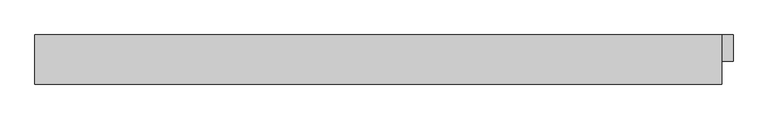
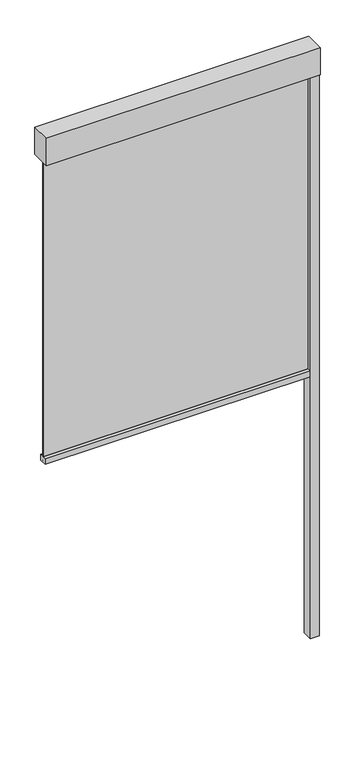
"""IFC4 building model written with IfcOpenShell, lengths in millimetres: proxy geometry, Renson_Fixscreen_Minimal_CW50_Middle : For curtain wall - Middle element - Access downwards - Fabric close to the window."""

import ifcopenshell
import ifcopenshell.guid

model = None  # the IFC model being written
_history = None  # IfcOwnerHistory: only IFC2X3 demands one
_inside = {}  # id of a spatial element -> (the spatial element, [elements in it])
_under = {}  # id of a project, library or spatial element -> (it, [spatial elements below it])
_declared = {}  # id of a project -> (the project, [libraries it declares])
_typed = {}  # id of a type object -> (the type object, [elements of that type])
_made_of = {}  # id of a material, layer set ... -> (it, [elements and type objects made of it])


def new_model(schema):
    """Start an empty IFC model of exactly this schema.

    Asked for "IFC4X3", IfcOpenShell would pick the latest addendum, in which some entities
    have other attributes; the version numbers below select the first issue.
    IFC2X3 requires an IfcOwnerHistory on every rooted entity: one is made here for all.
    """
    global model, _history
    if schema == "IFC4X3":
        model = ifcopenshell.file(schema_version=(4, 3, 0, 0))
    else:
        model = ifcopenshell.file(schema=schema)
    _inside.clear()
    _under.clear()
    _declared.clear()
    _typed.clear()
    _made_of.clear()
    _history = None
    if model.schema == "IFC2X3":
        org = make("IfcOrganization", Name="unknown")
        user = make(
            "IfcPersonAndOrganization",
            ThePerson=make("IfcPerson", FamilyName="unknown"),
            TheOrganization=org,
        )
        app = make(
            "IfcApplication",
            ApplicationDeveloper=org,
            Version="unknown",
            ApplicationFullName="unknown",
            ApplicationIdentifier="unknown",
        )
        _history = make(
            "IfcOwnerHistory",
            OwningUser=user,
            OwningApplication=app,
            ChangeAction="ADDED",
            CreationDate=0,
        )
    return model


def make(cls, **values):
    """One entity of the class cls with the attributes given. An attribute that is None is left unset."""
    return model.create_entity(
        cls, **{name: value for name, value in values.items() if value is not None}
    )


def rooted(cls, **values):
    """An entity with a GlobalId (a new one), such as an element, a storey or a relation."""
    return make(cls, GlobalId=ifcopenshell.guid.new(), OwnerHistory=_history, **values)


def si_unit(unit_type, name, prefix=None):
    """IfcSIUnit, for example si_unit("LENGTHUNIT", "METRE", prefix="MILLI")."""
    return make("IfcSIUnit", UnitType=unit_type, Prefix=prefix, Name=name)


def assignment(units):
    """IfcUnitAssignment: the units of a project."""
    return None if units is None else make("IfcUnitAssignment", Units=units)


def point(xyz):
    """IfcCartesianPoint."""
    return None if xyz is None else make("IfcCartesianPoint", Coordinates=xyz)


def direction(xyz):
    """IfcDirection."""
    return None if xyz is None else make("IfcDirection", DirectionRatios=xyz)


def frame(location, z_axis=None, x_axis=None):
    """IfcAxis2Placement3D, a coordinate frame: its origin and axes. An axis left out is left unset."""
    return make(
        "IfcAxis2Placement3D",
        Location=point(location),
        Axis=direction(z_axis),
        RefDirection=direction(x_axis),
    )


def frame_2d(location, x_axis=None):
    """IfcAxis2Placement2D, a coordinate frame in the plane: its origin and x axis."""
    return make(
        "IfcAxis2Placement2D", Location=point(location), RefDirection=direction(x_axis)
    )


def origin():
    """The frame at (0, 0, 0) with its axes left unset."""
    return frame((0.0, 0.0, 0.0))


def origin_with_axes():
    """The frame at (0, 0, 0) with the z axis (0, 0, 1) and the x axis (1, 0, 0) written out."""
    return frame((0.0, 0.0, 0.0), z_axis=(0.0, 0.0, 1.0), x_axis=(1.0, 0.0, 0.0))


def place(relative_to, where):
    """IfcLocalPlacement: puts the frame where relative to a parent placement (None: the world)."""
    return make(
        "IfcLocalPlacement", PlacementRelTo=relative_to, RelativePlacement=where
    )


def context(
    kind, dimensions, precision=None, world=None, true_north=None, identifier=None
):
    """IfcGeometricRepresentationContext, for example the 3D "Model" context."""
    return make(
        "IfcGeometricRepresentationContext",
        ContextIdentifier=identifier,
        ContextType=kind,
        CoordinateSpaceDimension=dimensions,
        Precision=precision,
        WorldCoordinateSystem=world,
        TrueNorth=true_north,
    )


def project(units=None, contexts=None):
    """IfcProject with its units and contexts."""
    return rooted(
        "IfcProject",
        Name="project",
        RepresentationContexts=contexts,
        UnitsInContext=assignment(units),
    )


def spatial(cls, under=None, at=None, **own):
    """A site, building, storey or space (cls), placed at a placement, below another one or the project."""
    s = rooted(cls, ObjectPlacement=at, **own)
    if under is not None:
        _under.setdefault(under.id(), (under, []))[1].append(s)
    return s


def polyline(points):
    """IfcPolyline through the points."""
    return make("IfcPolyline", Points=[point(p) for p in points])


def circle_curve(where, radius):
    """IfcCircle in the frame where."""
    return make("IfcCircle", Position=where, Radius=radius)


def trimmed(basis, trim1, trim2, sense, master):
    """IfcTrimmedCurve: the piece of a basis curve between two trims."""
    return make(
        "IfcTrimmedCurve",
        BasisCurve=basis,
        Trim1=trim1,
        Trim2=trim2,
        SenseAgreement=sense,
        MasterRepresentation=master,
    )


def segment(curve, same_sense, transition):
    """IfcCompositeCurveSegment."""
    return make(
        "IfcCompositeCurveSegment",
        Transition=transition,
        SameSense=same_sense,
        ParentCurve=curve,
    )


def composite_curve(segments, self_intersect=None):
    """IfcCompositeCurve: segments joined end to end."""
    return make("IfcCompositeCurve", Segments=segments, SelfIntersect=self_intersect)


def outline(outer, holes=None, kind="AREA"):
    """IfcArbitraryClosedProfileDef: a profile drawn as a closed curve; with holes, ...WithVoids."""
    if holes is None:
        return make("IfcArbitraryClosedProfileDef", ProfileType=kind, OuterCurve=outer)
    return make(
        "IfcArbitraryProfileDefWithVoids",
        ProfileType=kind,
        OuterCurve=outer,
        InnerCurves=holes,
    )


def extrude(swept, where, along, depth):
    """IfcExtrudedAreaSolid: the profile swept, set in the frame where, extruded along a direction by depth."""
    return make(
        "IfcExtrudedAreaSolid",
        SweptArea=swept,
        Position=where,
        ExtrudedDirection=direction(along),
        Depth=depth,
    )


def shape(context_of_items, identifier, shape_type, items):
    """IfcShapeRepresentation: the items that make up one representation, for example the "Body"."""
    return make(
        "IfcShapeRepresentation",
        ContextOfItems=context_of_items,
        RepresentationIdentifier=identifier,
        RepresentationType=shape_type,
        Items=items,
    )


def source(mapping_origin, context_of_items, identifier, shape_type, items):
    """IfcRepresentationMap: a shape defined once, which mapped items show again and again."""
    return make(
        "IfcRepresentationMap",
        MappingOrigin=mapping_origin,
        MappedRepresentation=shape(context_of_items, identifier, shape_type, items),
    )


def transform(
    local_origin,
    x_axis=None,
    y_axis=None,
    z_axis=None,
    scale=None,
    scale2=None,
    scale3=None,
    uniform=True,
):
    """IfcCartesianTransformationOperator3D, or its non-uniform kind. x_axis, y_axis, z_axis: its Axis1, 2, 3."""
    if uniform:
        return make(
            "IfcCartesianTransformationOperator3D",
            Axis1=direction(x_axis),
            Axis2=direction(y_axis),
            LocalOrigin=point(local_origin),
            Scale=scale,
            Axis3=direction(z_axis),
        )
    return make(
        "IfcCartesianTransformationOperator3DnonUniform",
        Axis1=direction(x_axis),
        Axis2=direction(y_axis),
        LocalOrigin=point(local_origin),
        Scale=scale,
        Axis3=direction(z_axis),
        Scale2=scale2,
        Scale3=scale3,
    )


def mapped(mapping_source, mapping_target):
    """IfcMappedItem: shows the shape of a source again, moved by a transform."""
    return make(
        "IfcMappedItem", MappingSource=mapping_source, MappingTarget=mapping_target
    )


def made_of(thing, what):
    """Note that an element or type object is made of a material, layer set ...; save() writes the relation."""
    if what is not None:
        _made_of.setdefault(what.id(), (what, []))[1].append(thing)
    return thing


def element(
    cls,
    number,
    at=None,
    inside=None,
    cuts=None,
    type_object=None,
    material=None,
    context=None,
    identifier="Body",
    shape_type=None,
    held_by="IfcProductDefinitionShape",
    body=None,
    shapes=None,
    **own,
):
    """One element of the class cls, such as IfcWall. Its Tag is "e" and its number.

    at: its placement. inside: the storey or other place that contains it. cuts: it is an
    opening in that element (IfcRelVoidsElement). A single representation is given by context,
    identifier, shape_type and body (its items); several are given by shapes. held_by: the class
    of the entity that holds the representations. save() writes the other relations.
    """
    e = rooted(cls, Tag="e%d" % number, ObjectPlacement=at, **own)
    if body is not None:
        shapes = [shape(context, identifier, shape_type, body)]
    if shapes is not None:
        e.Representation = make(held_by, Representations=shapes)
    if inside is not None:
        _inside.setdefault(inside.id(), (inside, []))[1].append(e)
    if cuts is not None:
        rooted(
            "IfcRelVoidsElement", RelatingBuildingElement=cuts, RelatedOpeningElement=e
        )
    if type_object is not None:
        _typed.setdefault(type_object.id(), (type_object, []))[1].append(e)
    return made_of(e, material)


def aggregate(whole, parts):
    """IfcRelAggregates: a whole, such as a stair, and the parts it consists of."""
    return rooted("IfcRelAggregates", RelatingObject=whole, RelatedObjects=parts)


def save(model, path):
    """Write the relations noted so far, then the file.

    IfcRelAggregates (storeys below a building ...), IfcRelContainedInSpatialStructure (elements
    in a storey), IfcRelDefinesByType, IfcRelAssociatesMaterial and IfcRelDeclares: one each for
    every whole, place, type object, material and project.
    """
    for whole, parts in _under.values():
        aggregate(whole, parts)
    for where, things in _inside.values():
        rooted(
            "IfcRelContainedInSpatialStructure",
            RelatedElements=things,
            RelatingStructure=where,
        )
    for kind, things in _typed.values():
        rooted("IfcRelDefinesByType", RelatedObjects=things, RelatingType=kind)
    for what, things in _made_of.values():
        rooted("IfcRelAssociatesMaterial", RelatedObjects=things, RelatingMaterial=what)
    for by, libraries in _declared.values():
        rooted("IfcRelDeclares", RelatingContext=by, RelatedDefinitions=libraries)
    model.write(path)


def generic_models_db297607(model_context):
    return source(origin(), model_context, "Body", "SweptSolid", [
        extrude(outline(polyline([(530.0, -751.5959909), (480.0, -751.5959909), (480.0, -693.5959909), (530.0, -693.5959909), (530.0, -751.5959909)])), origin_with_axes(), (0.0, 0.0, 1.0), 3340.0),
        extrude(outline(polyline([(-1020.0, -693.5959909), (505.0, -693.5959909), (505.0, -803.5959909), (-1020.0, -803.5959909), (-1020.0, -693.5959909)])), frame((0.0, 0.0, 3340.0), z_axis=(0.0, 0.0, 1.0), x_axis=(1.0, 0.0, 0.0)), (0.0, 0.0, 1.0), 160.0),
        extrude(outline(composite_curve([segment(polyline([(-708.5959909, 1540.0), (-749.0958874, 1540.0), (-749.0958874, 1574.1156826), (-731.9717779, 1575.0000198)]), True, "CONTINUOUS"), segment(trimmed(circle_curve(frame_2d((-731.9459909, 1574.5006852)), 0.5), [point((-731.9717779, 1575.0000198))], [point((-731.4459909, 1574.5006852))], False, "CARTESIAN"), True, "CONTINUOUS"), segment(polyline([(-731.4459909, 1574.5006852), (-731.4459909, 1573.5367989), (-732.7111292, 1573.5367989), (-731.9708257, 1569.0119223)]), True, "CONTINUOUS"), segment(trimmed(circle_curve(frame_2d((-771.4459909, 1562.5534911)), 40.0), [point((-731.9708257, 1569.0119223))], [point((-731.4459909, 1562.5534911))], False, "CARTESIAN"), True, "CONTINUOUS"), segment(polyline([(-731.4459909, 1562.5534911), (-731.4459909, 1554.5006852)]), True, "CONTINUOUS"), segment(trimmed(circle_curve(frame_2d((-729.4459909, 1554.5006852)), 2.0), [point((-731.4459909, 1554.5006852))], [point((-729.4459909, 1552.5006852))], True, "CARTESIAN"), True, "CONTINUOUS"), segment(polyline([(-729.4459909, 1552.5006852), (-727.7459909, 1552.5006852)]), True, "CONTINUOUS"), segment(trimmed(circle_curve(frame_2d((-727.7459909, 1554.5006852)), 2.0), [point((-727.7459909, 1552.5006852))], [point((-725.7459909, 1554.5006852))], True, "CARTESIAN"), True, "CONTINUOUS"), segment(polyline([(-725.7459909, 1554.5006852), (-725.7459909, 1562.5534911)]), True, "CONTINUOUS"), segment(trimmed(circle_curve(frame_2d((-685.7459909, 1562.5534911)), 40.0), [point((-725.7459909, 1562.5534911))], [point((-725.221156, 1569.0119223))], False, "CARTESIAN"), True, "CONTINUOUS"), segment(polyline([(-725.221156, 1569.0119223), (-724.4808525, 1573.5367989), (-725.7459909, 1573.5367989), (-725.7459909, 1574.5006852)]), True, "CONTINUOUS"), segment(trimmed(circle_curve(frame_2d((-725.2459909, 1574.5006852)), 0.5), [point((-725.7459909, 1574.5006852))], [point((-725.2194276, 1574.9999791))], False, "CARTESIAN"), True, "CONTINUOUS"), segment(polyline([(-725.2194276, 1574.9999791), (-708.5959909, 1574.1156826), (-708.5959909, 1540.0)]), True, "CONTINUOUS")], self_intersect=False)), frame((-995.0, 0.0, 0.0), z_axis=(1.0, 0.0, 0.0), x_axis=(0.0, 1.0, 0.0)), (0.0, 0.0, 1.0), 1475.0),
        extrude(outline(polyline([(-995.0, -730.0959909), (-995.0, -727.0959909), (480.0, -727.0959909), (480.0, -730.0959909), (-995.0, -730.0959909)])), frame((0.0, 0.0, 1552.5006852), z_axis=(0.0, 0.0, 1.0), x_axis=(1.0, 0.0, 0.0)), (0.0, 0.0, 1.0), 1787.4993148),
    ])


if __name__ == "__main__":
    model = new_model("IFC4")
    model_context = context("Model", 3, world=origin())
    ifc_project = project(units=[si_unit("LENGTHUNIT", "METRE", prefix="MILLI")], contexts=[model_context])
    site = spatial("IfcSite", under=ifc_project)
    building = spatial("IfcBuilding", under=site)
    placement = place(None, origin())
    generic_models_shape = generic_models_db297607(model_context)
    element("IfcBuildingElementProxy", 1, Name="Renson_Fixscreen_Minimal_CW50_Middle : For curtain wall - Middle element - Access downwards - Fabric close to the window", ObjectType="Renson_Fixscreen_Minimal_CW50_Middle : For curtain wall - Middle element - Access downwards - Fabric close to the window", at=placement, inside=building, context=model_context, shape_type="MappedRepresentation", body=[
        mapped(generic_models_shape, transform((0.0, 0.0, 0.0), x_axis=(1.0, 0.0, 0.0), y_axis=(0.0, 1.0, 0.0), z_axis=(0.0, 0.0, 1.0))),
    ])
    save(model, "model.ifc")
